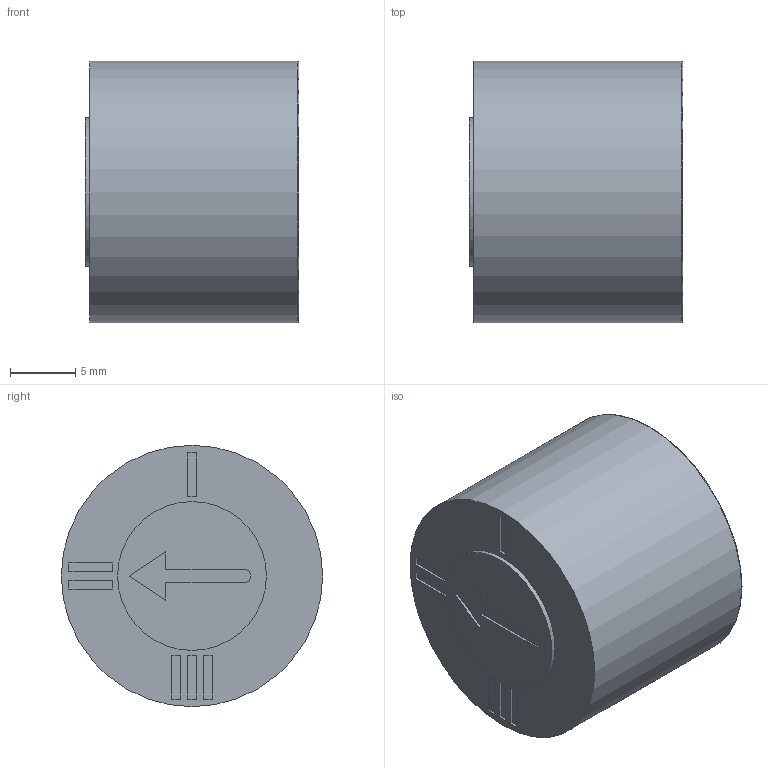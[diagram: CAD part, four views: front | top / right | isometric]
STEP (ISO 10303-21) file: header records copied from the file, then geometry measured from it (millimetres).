
FILE_DESCRIPTION( ( 'STEP AP203' ), ' ' );
FILE_NAME( 'p:/temp/worker_137/2260_1376/app_90_12017012510014468115287260eae72_000000_00_00_000000/format_0/FOS0020(0.35).stp', '2017-01-25T09:01:45', ( '' ), ( '' ), ' ', 'PARTsolutions', ' ' );
FILE_SCHEMA( ( 'CONFIG_CONTROL_DESIGN' ) );
Length unit declared in the file: millimetre
Products named in the file (3): FOS0020(0.35); _FOS0020(0.35)1; _FOS0020(0.35)2
Assembly tree (2 placements, depth 2):
  FOS0020(0.35)
    _FOS0020(0.35)1
    _FOS0020(0.35)2
Bounding box: 16.35 x 20 x 20 mm (x, y, z)
Volume: 4222.5 mm3; surface area: 2608.8 mm2
Topology: 2 solids, 2 shells, 53 faces, 116 edges, 76 vertices
Faces by surface type: plane 43, cylinder 6, cone 3, torus 1
Full cylindrical faces by diameter (mm): 3.621 x1, 4 x1, 11.4 x2, 20 x1
Entity records: 1501 total; most frequent: CARTESIAN_POINT 239, DIRECTION 235, ORIENTED_EDGE 214, EDGE_CURVE 107, LINE 91, VECTOR 91, VERTEX_POINT 76, EDGE_LOOP 73
